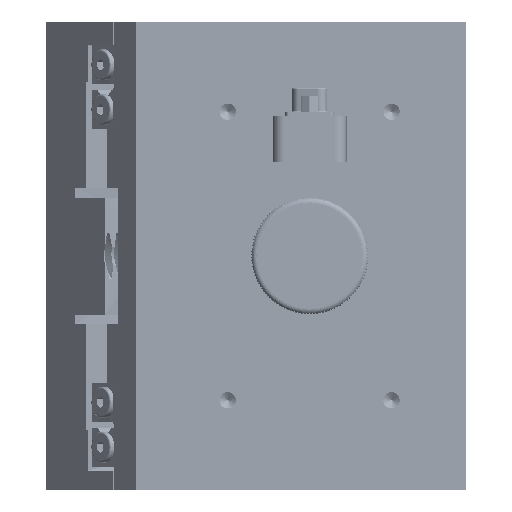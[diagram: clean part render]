
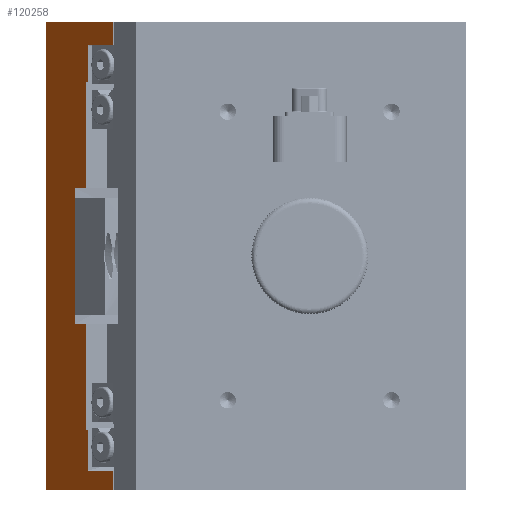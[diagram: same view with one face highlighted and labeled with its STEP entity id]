
A CAD part, left-side view. The second image highlights one B-rep face of the part: STEP entity #120258.
In plain terms, the highlighted planar face has unit normal (-0.629, 0.777, 0).
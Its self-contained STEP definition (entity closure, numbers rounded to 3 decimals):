
#306 = EDGE_CURVE ( 'NONE', #11636, #5972, #90649, .T. ) ;
#2249 = CARTESIAN_POINT ( 'NONE',  ( -26.367, 32.561, 77.5 ) ) ;
#5972 = VERTEX_POINT ( 'NONE', #117874 ) ;
#7835 = DIRECTION ( 'NONE',  ( 0., 0., -1. ) ) ;
#9293 = VERTEX_POINT ( 'NONE', #58387 ) ;
#10030 = CARTESIAN_POINT ( 'NONE',  ( -32.869, 27.296, 114. ) ) ;
#11279 = EDGE_LOOP ( 'NONE', ( #133281, #138451, #25882, #13660, #69729, #108449, #156886, #99206, #77332, #69544, #15744, #87899, #51429, #43660, #91106, #42145 ) ) ;
#11527 = CARTESIAN_POINT ( 'NONE',  ( -40.64, 21.003, 0. ) ) ;
#11636 = VERTEX_POINT ( 'NONE', #128968 ) ;
#11719 = DIRECTION ( 'NONE',  ( 0.777, 0.629, 0. ) ) ;
#12414 = CARTESIAN_POINT ( 'NONE',  ( -32.092, 27.926, 77.5 ) ) ;
#13145 = CARTESIAN_POINT ( 'NONE',  ( -40.64, 21.003, 120. ) ) ;
#13495 = FACE_OUTER_BOUND ( 'NONE', #11279, .T. ) ;
#13660 = ORIENTED_EDGE ( 'NONE', *, *, #306, .F. ) ;
#13837 = VECTOR ( 'NONE', #118857, 1000. ) ;
#13925 = DIRECTION ( 'NONE',  ( 0., 0., -1. ) ) ;
#14271 = DIRECTION ( 'NONE',  ( 0.629, -0.777, 0. ) ) ;
#15744 = ORIENTED_EDGE ( 'NONE', *, *, #108486, .F. ) ;
#16297 = VECTOR ( 'NONE', #68285, 1000. ) ;
#17047 = DIRECTION ( 'NONE',  ( 0., 0., -1. ) ) ;
#18523 = VERTEX_POINT ( 'NONE', #60047 ) ;
#20131 = EDGE_CURVE ( 'NONE', #133052, #131636, #24559, .T. ) ;
#20342 = DIRECTION ( 'NONE',  ( -0.777, -0.629, 0. ) ) ;
#24559 = LINE ( 'NONE', #107968, #103638 ) ;
#25160 = VECTOR ( 'NONE', #35941, 1000. ) ;
#25428 = DIRECTION ( 'NONE',  ( 0.777, 0.629, 0. ) ) ;
#25882 = ORIENTED_EDGE ( 'NONE', *, *, #80955, .T. ) ;
#29656 = VERTEX_POINT ( 'NONE', #135114 ) ;
#31188 = LINE ( 'NONE', #66941, #68207 ) ;
#32152 = VERTEX_POINT ( 'NONE', #85948 ) ;
#33107 = AXIS2_PLACEMENT_3D ( 'NONE', #47688, #14271, #25428 ) ;
#33246 = EDGE_CURVE ( 'NONE', #120683, #88227, #82102, .T. ) ;
#34120 = CARTESIAN_POINT ( 'NONE',  ( -32.869, 27.296, 5. ) ) ;
#35352 = VECTOR ( 'NONE', #11719, 1000. ) ;
#35941 = DIRECTION ( 'NONE',  ( 0.777, 0.629, 0. ) ) ;
#36235 = LINE ( 'NONE', #10030, #13837 ) ;
#37706 = VECTOR ( 'NONE', #43751, 1000. ) ;
#38669 = CARTESIAN_POINT ( 'NONE',  ( -19.657, 37.995, 120. ) ) ;
#42145 = ORIENTED_EDGE ( 'NONE', *, *, #155226, .F. ) ;
#43243 = LINE ( 'NONE', #139356, #149687 ) ;
#43660 = ORIENTED_EDGE ( 'NONE', *, *, #154048, .T. ) ;
#43751 = DIRECTION ( 'NONE',  ( 0., 0., -1. ) ) ;
#47688 = CARTESIAN_POINT ( 'NONE',  ( -26.367, 32.561, 120. ) ) ;
#48729 = CARTESIAN_POINT ( 'NONE',  ( -28.595, 30.757, 77.5 ) ) ;
#50043 = PLANE ( 'NONE',  #33107 ) ;
#51429 = ORIENTED_EDGE ( 'NONE', *, *, #65889, .F. ) ;
#54812 = CARTESIAN_POINT ( 'NONE',  ( -26.367, 32.561, 114. ) ) ;
#54897 = CARTESIAN_POINT ( 'NONE',  ( -32.092, 27.926, 104.5 ) ) ;
#55841 = VECTOR ( 'NONE', #142457, 1000. ) ;
#56142 = CARTESIAN_POINT ( 'NONE',  ( -40.64, 21.003, 114. ) ) ;
#58387 = CARTESIAN_POINT ( 'NONE',  ( -28.595, 30.757, 42.5 ) ) ;
#59583 = VERTEX_POINT ( 'NONE', #62416 ) ;
#60047 = CARTESIAN_POINT ( 'NONE',  ( -40.64, 21.003, 5. ) ) ;
#61126 = VECTOR ( 'NONE', #71564, 1000. ) ;
#62416 = CARTESIAN_POINT ( 'NONE',  ( -32.869, 27.296, 15.5 ) ) ;
#62901 = VECTOR ( 'NONE', #119395, 1000. ) ;
#65282 = EDGE_CURVE ( 'NONE', #108708, #18523, #85037, .T. ) ;
#65889 = EDGE_CURVE ( 'NONE', #109895, #29656, #92637, .T. ) ;
#66941 = CARTESIAN_POINT ( 'NONE',  ( -40.64, 21.003, 120. ) ) ;
#68207 = VECTOR ( 'NONE', #116122, 1000. ) ;
#68285 = DIRECTION ( 'NONE',  ( 0.777, 0.629, 0. ) ) ;
#69544 = ORIENTED_EDGE ( 'NONE', *, *, #140094, .F. ) ;
#69729 = ORIENTED_EDGE ( 'NONE', *, *, #152794, .T. ) ;
#70945 = CARTESIAN_POINT ( 'NONE',  ( -26.367, 32.561, 0. ) ) ;
#70959 = VECTOR ( 'NONE', #7835, 1000. ) ;
#71168 = CARTESIAN_POINT ( 'NONE',  ( -19.657, 37.995, 0. ) ) ;
#71201 = LINE ( 'NONE', #13145, #121473 ) ;
#71564 = DIRECTION ( 'NONE',  ( -0.777, -0.629, 0. ) ) ;
#73010 = DIRECTION ( 'NONE',  ( 0., 0., -1. ) ) ;
#77332 = ORIENTED_EDGE ( 'NONE', *, *, #156004, .F. ) ;
#80156 = LINE ( 'NONE', #142890, #70959 ) ;
#80955 = EDGE_CURVE ( 'NONE', #59583, #5972, #93197, .T. ) ;
#82102 = LINE ( 'NONE', #70945, #55841 ) ;
#82280 = EDGE_CURVE ( 'NONE', #139569, #9293, #103317, .T. ) ;
#85037 = LINE ( 'NONE', #117611, #61126 ) ;
#85694 = LINE ( 'NONE', #2249, #135539 ) ;
#85948 = CARTESIAN_POINT ( 'NONE',  ( -32.869, 27.296, 104.5 ) ) ;
#86391 = EDGE_CURVE ( 'NONE', #59583, #108708, #80156, .T. ) ;
#87899 = ORIENTED_EDGE ( 'NONE', *, *, #124134, .F. ) ;
#88227 = VERTEX_POINT ( 'NONE', #11527 ) ;
#89704 = VERTEX_POINT ( 'NONE', #56142 ) ;
#90649 = LINE ( 'NONE', #54897, #117997 ) ;
#91106 = ORIENTED_EDGE ( 'NONE', *, *, #33246, .T. ) ;
#92637 = LINE ( 'NONE', #129138, #147563 ) ;
#93197 = LINE ( 'NONE', #154393, #62901 ) ;
#94227 = CARTESIAN_POINT ( 'NONE',  ( -32.869, 27.296, 114. ) ) ;
#99206 = ORIENTED_EDGE ( 'NONE', *, *, #20131, .F. ) ;
#103317 = LINE ( 'NONE', #114447, #37706 ) ;
#103638 = VECTOR ( 'NONE', #73010, 1000. ) ;
#104973 = CARTESIAN_POINT ( 'NONE',  ( -32.092, 27.926, 104.5 ) ) ;
#107968 = CARTESIAN_POINT ( 'NONE',  ( -32.092, 27.926, 104.5 ) ) ;
#108449 = ORIENTED_EDGE ( 'NONE', *, *, #82280, .F. ) ;
#108486 = EDGE_CURVE ( 'NONE', #89704, #116087, #142167, .T. ) ;
#108708 = VERTEX_POINT ( 'NONE', #34120 ) ;
#109895 = VERTEX_POINT ( 'NONE', #38669 ) ;
#114447 = CARTESIAN_POINT ( 'NONE',  ( -28.595, 30.757, 77.5 ) ) ;
#116087 = VERTEX_POINT ( 'NONE', #94227 ) ;
#116122 = DIRECTION ( 'NONE',  ( 0., 0., -1. ) ) ;
#117611 = CARTESIAN_POINT ( 'NONE',  ( -32.869, 27.296, 5. ) ) ;
#117874 = CARTESIAN_POINT ( 'NONE',  ( -32.092, 27.926, 15.5 ) ) ;
#117997 = VECTOR ( 'NONE', #155589, 1000. ) ;
#118857 = DIRECTION ( 'NONE',  ( 0., 0., -1. ) ) ;
#119395 = DIRECTION ( 'NONE',  ( 0.777, 0.629, 0. ) ) ;
#120258 = ADVANCED_FACE ( 'NONE', ( #13495 ), #50043, .F. ) ;
#120558 = CARTESIAN_POINT ( 'NONE',  ( -26.367, 32.561, 104.5 ) ) ;
#120683 = VERTEX_POINT ( 'NONE', #71168 ) ;
#121473 = VECTOR ( 'NONE', #13925, 1000. ) ;
#124134 = EDGE_CURVE ( 'NONE', #29656, #89704, #71201, .T. ) ;
#125323 = DIRECTION ( 'NONE',  ( 0.777, 0.629, 0. ) ) ;
#128968 = CARTESIAN_POINT ( 'NONE',  ( -32.092, 27.926, 42.5 ) ) ;
#129138 = CARTESIAN_POINT ( 'NONE',  ( -26.367, 32.561, 120. ) ) ;
#131264 = LINE ( 'NONE', #144800, #25160 ) ;
#131636 = VERTEX_POINT ( 'NONE', #12414 ) ;
#133052 = VERTEX_POINT ( 'NONE', #104973 ) ;
#133281 = ORIENTED_EDGE ( 'NONE', *, *, #65282, .F. ) ;
#135114 = CARTESIAN_POINT ( 'NONE',  ( -40.64, 21.003, 120. ) ) ;
#135539 = VECTOR ( 'NONE', #125323, 1000. ) ;
#136199 = EDGE_CURVE ( 'NONE', #131636, #139569, #85694, .T. ) ;
#138451 = ORIENTED_EDGE ( 'NONE', *, *, #86391, .F. ) ;
#139356 = CARTESIAN_POINT ( 'NONE',  ( -19.657, 37.995, 120. ) ) ;
#139569 = VERTEX_POINT ( 'NONE', #48729 ) ;
#140094 = EDGE_CURVE ( 'NONE', #116087, #32152, #36235, .T. ) ;
#142167 = LINE ( 'NONE', #54812, #16297 ) ;
#142457 = DIRECTION ( 'NONE',  ( -0.777, -0.629, 0. ) ) ;
#142890 = CARTESIAN_POINT ( 'NONE',  ( -32.869, 27.296, 114. ) ) ;
#144800 = CARTESIAN_POINT ( 'NONE',  ( -26.367, 32.561, 42.5 ) ) ;
#147563 = VECTOR ( 'NONE', #20342, 1000. ) ;
#149687 = VECTOR ( 'NONE', #17047, 1000. ) ;
#152794 = EDGE_CURVE ( 'NONE', #11636, #9293, #131264, .T. ) ;
#154048 = EDGE_CURVE ( 'NONE', #109895, #120683, #43243, .T. ) ;
#154393 = CARTESIAN_POINT ( 'NONE',  ( -26.367, 32.561, 15.5 ) ) ;
#155226 = EDGE_CURVE ( 'NONE', #18523, #88227, #31188, .T. ) ;
#155580 = LINE ( 'NONE', #120558, #35352 ) ;
#155589 = DIRECTION ( 'NONE',  ( 0., 0., -1. ) ) ;
#156004 = EDGE_CURVE ( 'NONE', #32152, #133052, #155580, .T. ) ;
#156886 = ORIENTED_EDGE ( 'NONE', *, *, #136199, .F. ) ;
